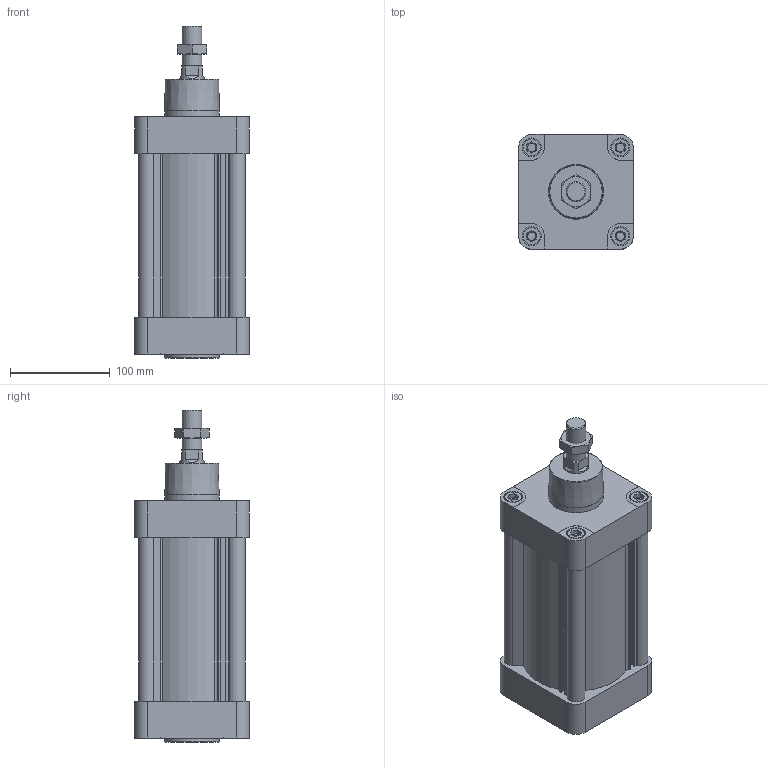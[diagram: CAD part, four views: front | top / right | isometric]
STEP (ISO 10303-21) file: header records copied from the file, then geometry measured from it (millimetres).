
FILE_DESCRIPTION( ( 'STEP AP203' ), '1' );
FILE_NAME( 'p:/temp/worker_22/temp/app_42_02018091518104629410875192d056f_000000_00_00_000000/format_1/MCQI2-11-100-100M(0_0).stp', '2018-09-15T16:10:48', ( '' ), ( '' ), ' ', 'PARTsolutions', ' ' );
FILE_SCHEMA( ( 'CONFIG_CONTROL_DESIGN' ) );
Length unit declared in the file: millimetre
Products named in the file (4): MCQI2-11-100-100M(0_0); _MCQI2-11-100-100M(00-b); _MCQI2-11-100-100M(00-r); _MCQI2100(-n)
Assembly tree (3 placements, depth 2):
  MCQI2-11-100-100M(0_0)
    _MCQI2-11-100-100M(00-b)
    _MCQI2-11-100-100M(00-r)
    _MCQI2100(-n)
Bounding box: 115 x 115 x 333 mm (x, y, z)
Volume: 1958960.3 mm3; surface area: 314019.6 mm2
Topology: 3 solids, 3 shells, 397 faces, 978 edges, 625 vertices
Faces by surface type: plane 251, cylinder 118, cone 26, torus 2
Full cylindrical faces by diameter (mm): 8.376 x8, 11 x2, 11.8 x2, 17.06 x8, 18.376 x1, 18.631 x2, 19.12 x8, 20 x1, 25 x2, 55 x2, 100 x2
Entity records: 11634 total; most frequent: CARTESIAN_POINT 2111, DIRECTION 2009, ORIENTED_EDGE 1840, EDGE_CURVE 920, AXIS2_PLACEMENT_3D 713, VERTEX_POINT 621, LINE 583, VECTOR 583
